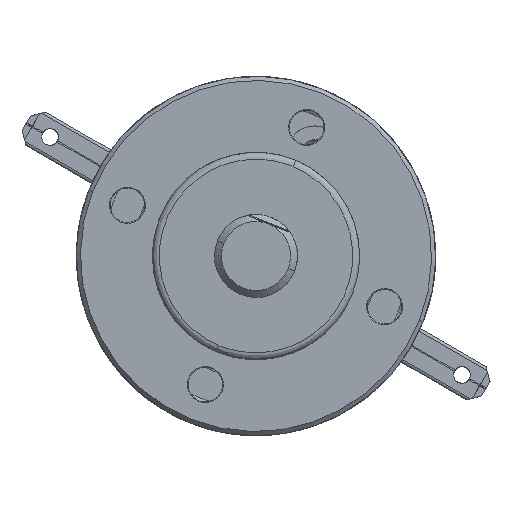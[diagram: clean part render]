
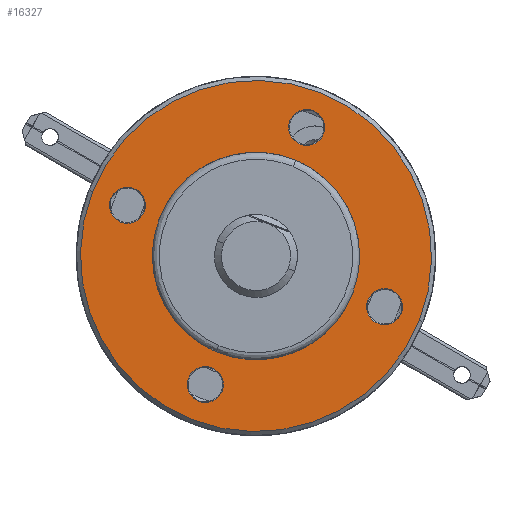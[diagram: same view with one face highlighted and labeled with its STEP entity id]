
A CAD part, left-side view. The second image highlights one B-rep face of the part: STEP entity #16327.
In plain terms, the highlighted planar face has unit normal (-1, 0, 0).
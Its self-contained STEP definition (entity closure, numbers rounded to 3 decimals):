
#60 = CIRCLE ( 'NONE', #15198, 1.3 ) ;
#207 = CARTESIAN_POINT ( 'NONE',  ( 0., 0., -10. ) ) ;
#376 = DIRECTION ( 'NONE',  ( 0., 0., 1. ) ) ;
#808 = CIRCLE ( 'NONE', #2717, 1.3 ) ;
#1025 = CARTESIAN_POINT ( 'NONE',  ( 0., 0., -8.7 ) ) ;
#1214 = FACE_BOUND ( 'NONE', #17018, .T. ) ;
#1573 = DIRECTION ( 'NONE',  ( 0., 0., 1. ) ) ;
#2273 = DIRECTION ( 'NONE',  ( 1., 0., 0. ) ) ;
#2285 = CIRCLE ( 'NONE', #5914, 1.3 ) ;
#2637 = CARTESIAN_POINT ( 'NONE',  ( 0., 0., -10. ) ) ;
#2648 = CIRCLE ( 'NONE', #3654, 1.3 ) ;
#2705 = EDGE_LOOP ( 'NONE', ( #3434, #3675 ) ) ;
#2717 = AXIS2_PLACEMENT_3D ( 'NONE', #6569, #16365, #7962 ) ;
#2897 = CARTESIAN_POINT ( 'NONE',  ( 0., 0., 8.7 ) ) ;
#3064 = ORIENTED_EDGE ( 'NONE', *, *, #15994, .F. ) ;
#3094 = DIRECTION ( 'NONE',  ( 1., 0., 0. ) ) ;
#3169 = EDGE_CURVE ( 'NONE', #10309, #3246, #6218, .T. ) ;
#3219 = DIRECTION ( 'NONE',  ( -1., 0., 0. ) ) ;
#3246 = VERTEX_POINT ( 'NONE', #15686 ) ;
#3434 = ORIENTED_EDGE ( 'NONE', *, *, #15322, .F. ) ;
#3606 = DIRECTION ( 'NONE',  ( -1., 0., 0. ) ) ;
#3627 = EDGE_CURVE ( 'NONE', #13595, #11069, #10380, .T. ) ;
#3628 = EDGE_CURVE ( 'NONE', #8100, #8423, #10852, .T. ) ;
#3654 = AXIS2_PLACEMENT_3D ( 'NONE', #17144, #8748, #376 ) ;
#3675 = ORIENTED_EDGE ( 'NONE', *, *, #13785, .F. ) ;
#3760 = AXIS2_PLACEMENT_3D ( 'NONE', #11522, #3094, #12923 ) ;
#3893 = EDGE_CURVE ( 'NONE', #8423, #8100, #13454, .T. ) ;
#3900 = CARTESIAN_POINT ( 'NONE',  ( 0., -10., -1.3 ) ) ;
#4099 = AXIS2_PLACEMENT_3D ( 'NONE', #12043, #3606, #13440 ) ;
#4290 = DIRECTION ( 'NONE',  ( 0., 0., 1. ) ) ;
#4352 = VERTEX_POINT ( 'NONE', #11970 ) ;
#4384 = ORIENTED_EDGE ( 'NONE', *, *, #3627, .F. ) ;
#5034 = CARTESIAN_POINT ( 'NONE',  ( 0., 0., 12.7 ) ) ;
#5134 = AXIS2_PLACEMENT_3D ( 'NONE', #11647, #3219, #13037 ) ;
#5139 = EDGE_LOOP ( 'NONE', ( #4384, #5404 ) ) ;
#5214 = ORIENTED_EDGE ( 'NONE', *, *, #11692, .F. ) ;
#5263 = DIRECTION ( 'NONE',  ( 1., 0., 0. ) ) ;
#5404 = ORIENTED_EDGE ( 'NONE', *, *, #14604, .F. ) ;
#5729 = CARTESIAN_POINT ( 'NONE',  ( 0., -10., 0. ) ) ;
#5828 = DIRECTION ( 'NONE',  ( -1., 0., 0. ) ) ;
#5914 = AXIS2_PLACEMENT_3D ( 'NONE', #5729, #15548, #7146 ) ;
#5958 = ORIENTED_EDGE ( 'NONE', *, *, #12514, .F. ) ;
#6218 = CIRCLE ( 'NONE', #7134, 1.3 ) ;
#6389 = CIRCLE ( 'NONE', #4099, 1.3 ) ;
#6569 = CARTESIAN_POINT ( 'NONE',  ( 0., 10., 0. ) ) ;
#6711 = EDGE_LOOP ( 'NONE', ( #12207, #5958 ) ) ;
#7134 = AXIS2_PLACEMENT_3D ( 'NONE', #2637, #12482, #4290 ) ;
#7146 = DIRECTION ( 'NONE',  ( 0., 0., 1. ) ) ;
#7641 = EDGE_CURVE ( 'NONE', #17595, #14574, #2648, .T. ) ;
#7783 = CARTESIAN_POINT ( 'NONE',  ( 0., 10., 0. ) ) ;
#7856 = CARTESIAN_POINT ( 'NONE',  ( 0., 0., 7.5 ) ) ;
#7962 = DIRECTION ( 'NONE',  ( 0., 0., 1. ) ) ;
#8100 = VERTEX_POINT ( 'NONE', #10974 ) ;
#8101 = CARTESIAN_POINT ( 'NONE',  ( 0., 0., 0. ) ) ;
#8280 = EDGE_CURVE ( 'NONE', #15945, #13525, #60, .T. ) ;
#8423 = VERTEX_POINT ( 'NONE', #7856 ) ;
#8508 = CARTESIAN_POINT ( 'NONE',  ( 0., -10., 1.3 ) ) ;
#8648 = FACE_BOUND ( 'NONE', #14761, .T. ) ;
#8748 = DIRECTION ( 'NONE',  ( -1., 0., 0. ) ) ;
#9069 = FACE_BOUND ( 'NONE', #13562, .T. ) ;
#9179 = CARTESIAN_POINT ( 'NONE',  ( 0., 10., -1.3 ) ) ;
#9188 = DIRECTION ( 'NONE',  ( 0., 0., 1. ) ) ;
#9256 = PLANE ( 'NONE',  #15886 ) ;
#9491 = DIRECTION ( 'NONE',  ( 0., 0., -1. ) ) ;
#9965 = DIRECTION ( 'NONE',  ( -1., 0., 0. ) ) ;
#10309 = VERTEX_POINT ( 'NONE', #1025 ) ;
#10380 = CIRCLE ( 'NONE', #10542, 12.7 ) ;
#10542 = AXIS2_PLACEMENT_3D ( 'NONE', #13673, #5263, #15101 ) ;
#10708 = CARTESIAN_POINT ( 'NONE',  ( 0., 0., 0. ) ) ;
#10827 = CIRCLE ( 'NONE', #14655, 1.3 ) ;
#10835 = AXIS2_PLACEMENT_3D ( 'NONE', #7783, #17582, #9188 ) ;
#10852 = CIRCLE ( 'NONE', #16181, 7.5 ) ;
#10974 = CARTESIAN_POINT ( 'NONE',  ( 0., 0., -7.5 ) ) ;
#11069 = VERTEX_POINT ( 'NONE', #5034 ) ;
#11522 = CARTESIAN_POINT ( 'NONE',  ( 0., 0., 0. ) ) ;
#11566 = CARTESIAN_POINT ( 'NONE',  ( 0., 0., -12.7 ) ) ;
#11647 = CARTESIAN_POINT ( 'NONE',  ( 0., 0., 0. ) ) ;
#11692 = EDGE_CURVE ( 'NONE', #3246, #10309, #10827, .T. ) ;
#11939 = ORIENTED_EDGE ( 'NONE', *, *, #7641, .F. ) ;
#11970 = CARTESIAN_POINT ( 'NONE',  ( 0., 10., 1.3 ) ) ;
#12043 = CARTESIAN_POINT ( 'NONE',  ( 0., 0., 10. ) ) ;
#12104 = DIRECTION ( 'NONE',  ( 0., 0., -1. ) ) ;
#12207 = ORIENTED_EDGE ( 'NONE', *, *, #8280, .F. ) ;
#12404 = FACE_BOUND ( 'NONE', #2705, .T. ) ;
#12482 = DIRECTION ( 'NONE',  ( -1., 0., 0. ) ) ;
#12514 = EDGE_CURVE ( 'NONE', #13525, #15945, #6389, .T. ) ;
#12923 = DIRECTION ( 'NONE',  ( 0., 0., -1. ) ) ;
#13037 = DIRECTION ( 'NONE',  ( 0., 0., -1. ) ) ;
#13440 = DIRECTION ( 'NONE',  ( 0., 0., 1. ) ) ;
#13454 = CIRCLE ( 'NONE', #5134, 7.5 ) ;
#13525 = VERTEX_POINT ( 'NONE', #2897 ) ;
#13562 = EDGE_LOOP ( 'NONE', ( #3064, #11939 ) ) ;
#13595 = VERTEX_POINT ( 'NONE', #11566 ) ;
#13604 = CIRCLE ( 'NONE', #3760, 12.7 ) ;
#13673 = CARTESIAN_POINT ( 'NONE',  ( 0., 0., 0. ) ) ;
#13785 = EDGE_CURVE ( 'NONE', #17897, #4352, #18012, .T. ) ;
#14031 = CARTESIAN_POINT ( 'NONE',  ( 0., 0., 11.3 ) ) ;
#14246 = CARTESIAN_POINT ( 'NONE',  ( 0., 0., 10. ) ) ;
#14574 = VERTEX_POINT ( 'NONE', #8508 ) ;
#14604 = EDGE_CURVE ( 'NONE', #11069, #13595, #13604, .T. ) ;
#14655 = AXIS2_PLACEMENT_3D ( 'NONE', #207, #9965, #1573 ) ;
#14761 = EDGE_LOOP ( 'NONE', ( #15488, #17095 ) ) ;
#15101 = DIRECTION ( 'NONE',  ( 0., 0., -1. ) ) ;
#15198 = AXIS2_PLACEMENT_3D ( 'NONE', #14246, #5828, #15627 ) ;
#15249 = ORIENTED_EDGE ( 'NONE', *, *, #3169, .F. ) ;
#15322 = EDGE_CURVE ( 'NONE', #4352, #17897, #808, .T. ) ;
#15488 = ORIENTED_EDGE ( 'NONE', *, *, #3628, .F. ) ;
#15548 = DIRECTION ( 'NONE',  ( -1., 0., 0. ) ) ;
#15627 = DIRECTION ( 'NONE',  ( 0., 0., 1. ) ) ;
#15659 = FACE_OUTER_BOUND ( 'NONE', #5139, .T. ) ;
#15686 = CARTESIAN_POINT ( 'NONE',  ( 0., 0., -11.3 ) ) ;
#15886 = AXIS2_PLACEMENT_3D ( 'NONE', #10708, #2273, #12104 ) ;
#15945 = VERTEX_POINT ( 'NONE', #14031 ) ;
#15994 = EDGE_CURVE ( 'NONE', #14574, #17595, #2285, .T. ) ;
#16095 = FACE_BOUND ( 'NONE', #6711, .T. ) ;
#16181 = AXIS2_PLACEMENT_3D ( 'NONE', #8101, #17898, #9491 ) ;
#16327 = ADVANCED_FACE ( 'NONE', ( #9069, #16095, #12404, #1214, #8648, #15659 ), #9256, .F. ) ;
#16365 = DIRECTION ( 'NONE',  ( -1., 0., 0. ) ) ;
#17018 = EDGE_LOOP ( 'NONE', ( #15249, #5214 ) ) ;
#17095 = ORIENTED_EDGE ( 'NONE', *, *, #3893, .F. ) ;
#17144 = CARTESIAN_POINT ( 'NONE',  ( 0., -10., 0. ) ) ;
#17582 = DIRECTION ( 'NONE',  ( -1., 0., 0. ) ) ;
#17595 = VERTEX_POINT ( 'NONE', #3900 ) ;
#17897 = VERTEX_POINT ( 'NONE', #9179 ) ;
#17898 = DIRECTION ( 'NONE',  ( -1., 0., 0. ) ) ;
#18012 = CIRCLE ( 'NONE', #10835, 1.3 ) ;
